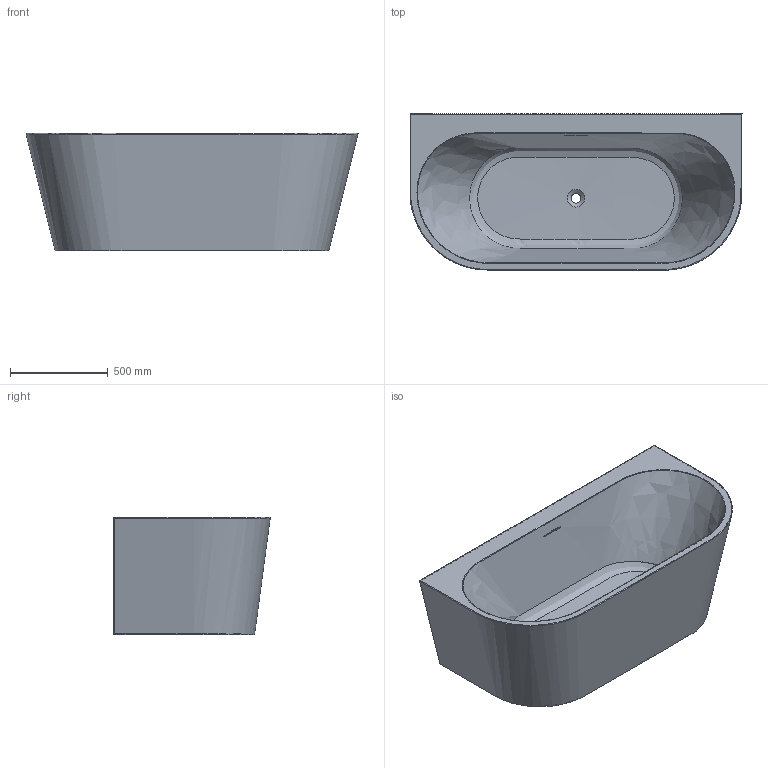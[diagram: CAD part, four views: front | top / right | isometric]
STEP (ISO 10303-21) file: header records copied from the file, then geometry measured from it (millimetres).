
FILE_DESCRIPTION(/* description */ (''),/* implementation_level */ '2;1');
FILE_NAME(/* name */ 'XA-191A-1700.stp',/* time_stamp */ '2022-11-30T12:30:46+08:00',/* author */ (''),/* organization */ (''),/* preprocessor_version */ 'ST-DEVELOPER v16',/* originating_system */ 'SIEMENS PLM Software NX 10.0',/* authorisation */ '');
FILE_SCHEMA (('AP203_CONFIGURATION_CONTROLLED_3D_DESIGN_OF_MECHANICAL_PARTS_AND_ASSEMBLIES_MIM_LF { 1 0 10303 403 2 1 2}'));
Length unit declared in the file: millimetre
Products named in the file (1): Admi11DC8F1053s0
Bounding box: 1698.32 x 799.56 x 600 mm (x, y, z)
Volume: 23435523.7 mm3; surface area: 10085947.2 mm2
Topology: 1 solids, 1 shells, 28 faces, 67 edges, 44 vertices
Faces by surface type: plane 10, bspline 9, cylinder 5, cone 4
Full cylindrical faces by diameter (mm): 50 x1, 60 x1
Entity records: 6657 total; most frequent: CARTESIAN_POINT 6070, ORIENTED_EDGE 98, DIRECTION 71, EDGE_CURVE 49, EDGE_LOOP 46, VERTEX_POINT 37, FACE_BOUND 34, ADVANCED_FACE 28
